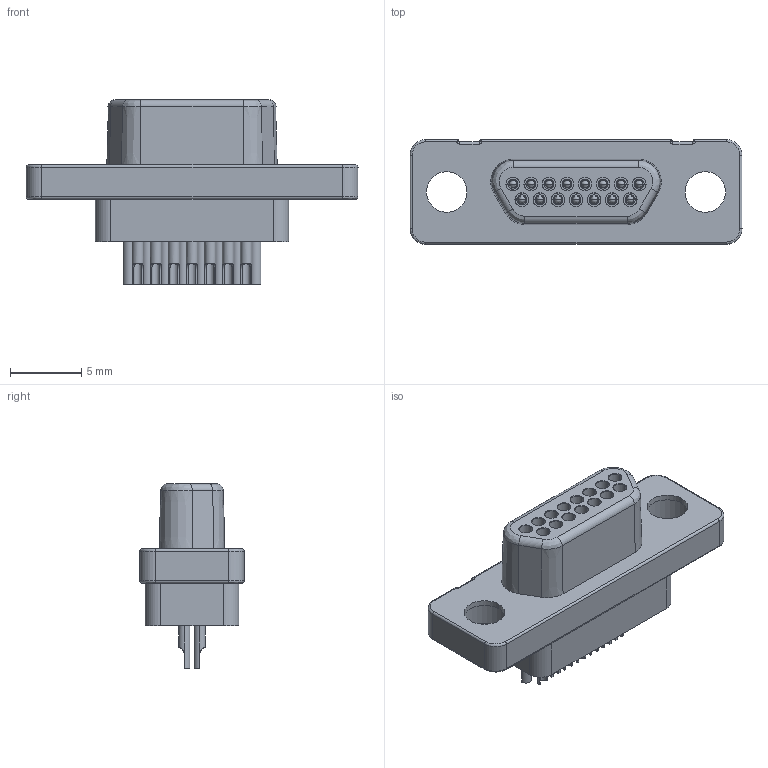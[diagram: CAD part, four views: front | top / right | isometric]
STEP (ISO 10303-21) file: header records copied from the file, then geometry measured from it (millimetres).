
FILE_DESCRIPTION (( 'STEP AP203' ), '1' );
FILE_NAME ('380-015-103L001.STEP', '2025-01-17T20:22:00', ( '' ), ( '' ), 'SwSTEP 2.0', 'SolidWorks 2020', '' );
FILE_SCHEMA (( 'CONFIG_CONTROL_DESIGN' ));
Length unit declared in the file: millimetre
Products named in the file (1): 380-015-103L001
Bounding box: 23.36 x 7.35 x 13 mm (x, y, z)
Volume: 673.6 mm3; surface area: 1644.5 mm2
Topology: 1 solids, 1 shells, 1635 faces, 4152 edges, 2344 vertices
Faces by surface type: cylinder 675, plane 470, bspline 306, cone 184
Entity records: 55181 total; most frequent: CARTESIAN_POINT 18786, ORIENTED_EDGE 8064, DIRECTION 7201, EDGE_CURVE 4032, AXIS2_PLACEMENT_3D 2880, VERTEX_POINT 2344, EDGE_LOOP 1704, ADVANCED_FACE 1635
